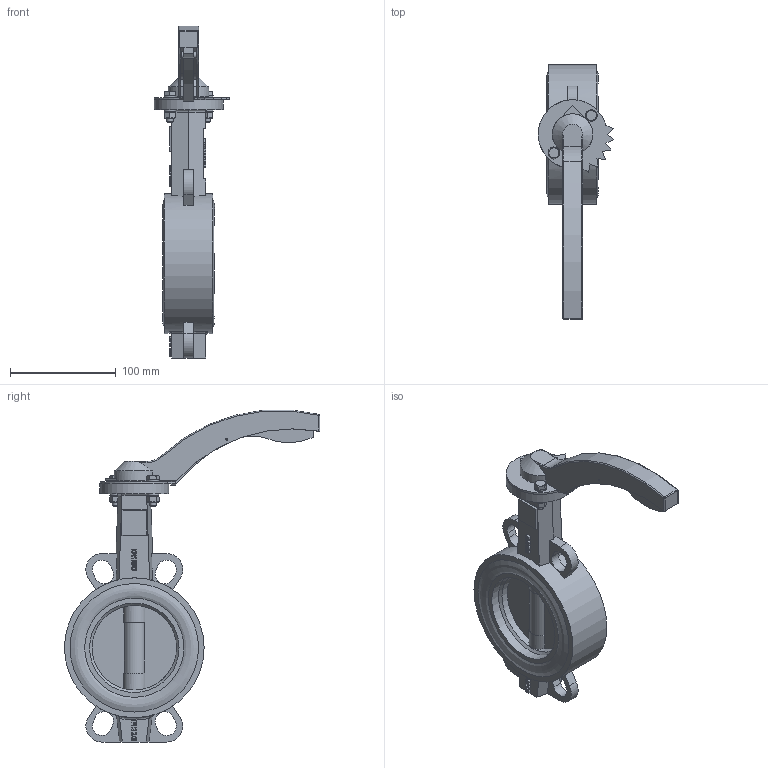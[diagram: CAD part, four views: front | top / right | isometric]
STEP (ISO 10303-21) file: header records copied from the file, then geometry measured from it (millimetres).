
FILE_DESCRIPTION(('STEP AP242'), '1');
FILE_NAME('Ïîâîðîòíûé çàòâîð ïîä ýëåêòðîïðèâîä', '', ('UNSPECIFIED'), ('UNSPECIFIED'), 'C3D Converter', 'C3D Toolkit', '');
FILE_SCHEMA(('AP242_MANAGED_MODEL_BASED_3D_ENGINEERING_MIM_LF { 1 0 10303 442 1 1 4 }'));
Length unit declared in the file: millimetre
Products named in the file (14): П
Assembly tree (20 placements, depth 3):
  (unnamed)
    (unnamed)
    П  x2
    (unnamed)
    (unnamed)
    (unnamed)
    (unnamed)
      (unnamed)
      (unnamed)
      (unnamed)
    (unnamed)  x2
    (unnamed)  x4
    (unnamed)  x2
    (unnamed)  x2
Bounding box: 71.39 x 241 x 313.61 mm (x, y, z)
Volume: 656271.8 mm3; surface area: 210484.1 mm2
Topology: 19 solids, 19 shells, 577 faces, 1463 edges, 952 vertices
Faces by surface type: plane 288, extrusion 153, cylinder 100, cone 18, torus 10, bspline 6, sphere 2
Full cylindrical faces by diameter (mm): 2 x2, 3 x2, 4.917 x2, 6 x4, 6.6 x4, 7 x6, 8.223 x1, 11 x4, 14 x6, 19.799 x5, 21.66 x4, 22.627 x1, 65 x1, 80 x1, 84.56 x2, 93.68 x2, 107.52 x4, 121.36 x4, 132 x1
Entity records: 22542 total; most frequent: CARTESIAN_POINT 7514, ORIENTED_EDGE 2606, DIRECTION 2064, EDGE_CURVE 1303, VERTEX_POINT 892, VECTOR 846, LINE 693, EDGE_LOOP 667
